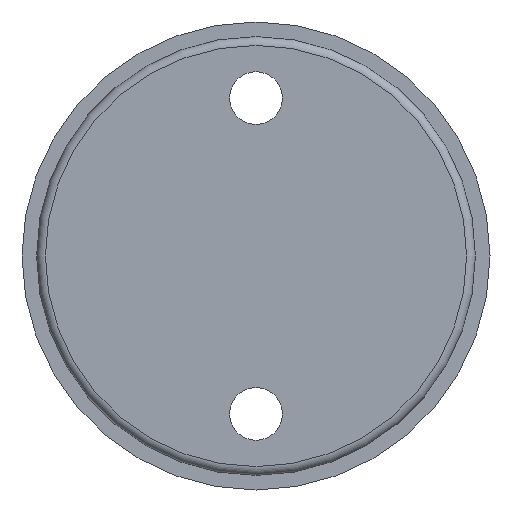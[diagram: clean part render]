
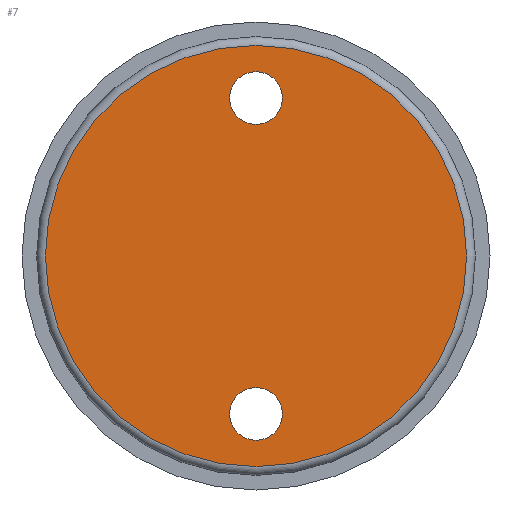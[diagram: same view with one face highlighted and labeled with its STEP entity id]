
A CAD part, front view. The second image highlights one B-rep face of the part: STEP entity #7.
In plain terms, the highlighted planar face has unit normal (0, -1, 0).
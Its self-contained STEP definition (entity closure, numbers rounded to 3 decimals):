
#4 = DIRECTION ( 'NONE',  ( 0., 0., 1. ) ) ;
#6 = ORIENTED_EDGE ( 'NONE', *, *, #19, .T. ) ;
#7 = ADVANCED_FACE ( 'NONE', ( #447, #191, #193 ), #408, .F. ) ;
#19 = EDGE_CURVE ( 'NONE', #208, #208, #151, .T. ) ;
#34 = EDGE_LOOP ( 'NONE', ( #590 ) ) ;
#44 = DIRECTION ( 'NONE',  ( 0., 0., 1. ) ) ;
#57 = DIRECTION ( 'NONE',  ( 0., 1., 0. ) ) ;
#63 = EDGE_CURVE ( 'NONE', #615, #615, #415, .T. ) ;
#98 = AXIS2_PLACEMENT_3D ( 'NONE', #583, #217, #44 ) ;
#138 = CARTESIAN_POINT ( 'NONE',  ( 0., 0., 36. ) ) ;
#140 = EDGE_CURVE ( 'NONE', #293, #293, #458, .T. ) ;
#151 = CIRCLE ( 'NONE', #542, 4.5 ) ;
#191 = FACE_BOUND ( 'NONE', #34, .T. ) ;
#193 = FACE_OUTER_BOUND ( 'NONE', #318, .T. ) ;
#199 = CARTESIAN_POINT ( 'NONE',  ( 0., 0., 0. ) ) ;
#208 = VERTEX_POINT ( 'NONE', #347 ) ;
#217 = DIRECTION ( 'NONE',  ( 0., -1., 0. ) ) ;
#229 = EDGE_LOOP ( 'NONE', ( #6 ) ) ;
#293 = VERTEX_POINT ( 'NONE', #301 ) ;
#301 = CARTESIAN_POINT ( 'NONE',  ( 0., 0., -22.5 ) ) ;
#316 = CARTESIAN_POINT ( 'NONE',  ( 0., 0., 27. ) ) ;
#318 = EDGE_LOOP ( 'NONE', ( #551 ) ) ;
#319 = AXIS2_PLACEMENT_3D ( 'NONE', #540, #663, #487 ) ;
#347 = CARTESIAN_POINT ( 'NONE',  ( 0., 0., 31.5 ) ) ;
#408 = PLANE ( 'NONE',  #449 ) ;
#415 = CIRCLE ( 'NONE', #98, 36. ) ;
#447 = FACE_BOUND ( 'NONE', #229, .T. ) ;
#449 = AXIS2_PLACEMENT_3D ( 'NONE', #199, #592, #634 ) ;
#458 = CIRCLE ( 'NONE', #319, 4.5 ) ;
#487 = DIRECTION ( 'NONE',  ( 0., 0., 1. ) ) ;
#540 = CARTESIAN_POINT ( 'NONE',  ( 0., 0., -27. ) ) ;
#542 = AXIS2_PLACEMENT_3D ( 'NONE', #316, #57, #4 ) ;
#551 = ORIENTED_EDGE ( 'NONE', *, *, #63, .T. ) ;
#583 = CARTESIAN_POINT ( 'NONE',  ( 0., 0., 0. ) ) ;
#590 = ORIENTED_EDGE ( 'NONE', *, *, #140, .T. ) ;
#592 = DIRECTION ( 'NONE',  ( 0., 1., 0. ) ) ;
#615 = VERTEX_POINT ( 'NONE', #138 ) ;
#634 = DIRECTION ( 'NONE',  ( 0., 0., 1. ) ) ;
#663 = DIRECTION ( 'NONE',  ( 0., 1., 0. ) ) ;
